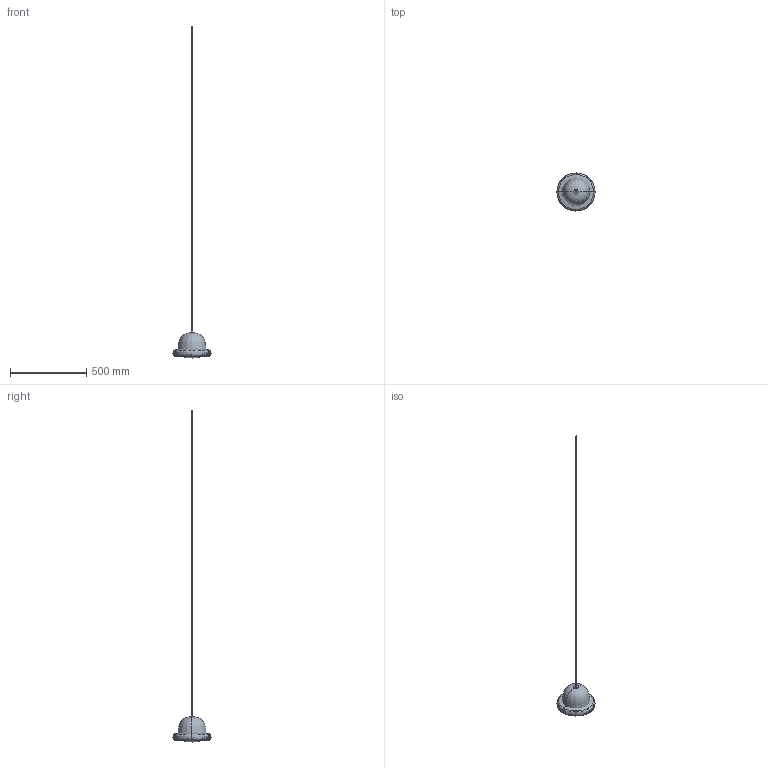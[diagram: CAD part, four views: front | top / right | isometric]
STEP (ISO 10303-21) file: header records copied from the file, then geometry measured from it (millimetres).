
FILE_DESCRIPTION(/* description */ (''),/* implementation_level */ '2;1');
FILE_NAME(/* name */ 'ILKW_MAGRITTE25_Pendant_3D',/* time_stamp */ '2026-08-28T16:55:18+09:00',/* author */ (''),/* organization */ (''),/* preprocessor_version */ 'ST-DEVELOPER v19.2',/* originating_system */ 'Rhino 8.21',/* authorisation */ '');
FILE_SCHEMA (('CONFIG_CONTROL_DESIGN'));
Length unit declared in the file: millimetre
Products named in the file (1): Document
Bounding box: 249.98 x 250 x 2183.71 mm (x, y, z)
Volume: 4439439.7 mm3; surface area: 199362.6 mm2
Topology: 4 solids, 4 shells, 19 faces, 32 edges, 19 vertices
Faces by surface type: cylinder 8, plane 7, bspline 4
Entity records: 1942 total; most frequent: CARTESIAN_POINT 1542, ORIENTED_EDGE 60, DIRECTION 55, AXIS2_PLACEMENT_3D 35, EDGE_CURVE 30, ADVANCED_FACE 19, FACE_OUTER_BOUND 19, EDGE_LOOP 19
